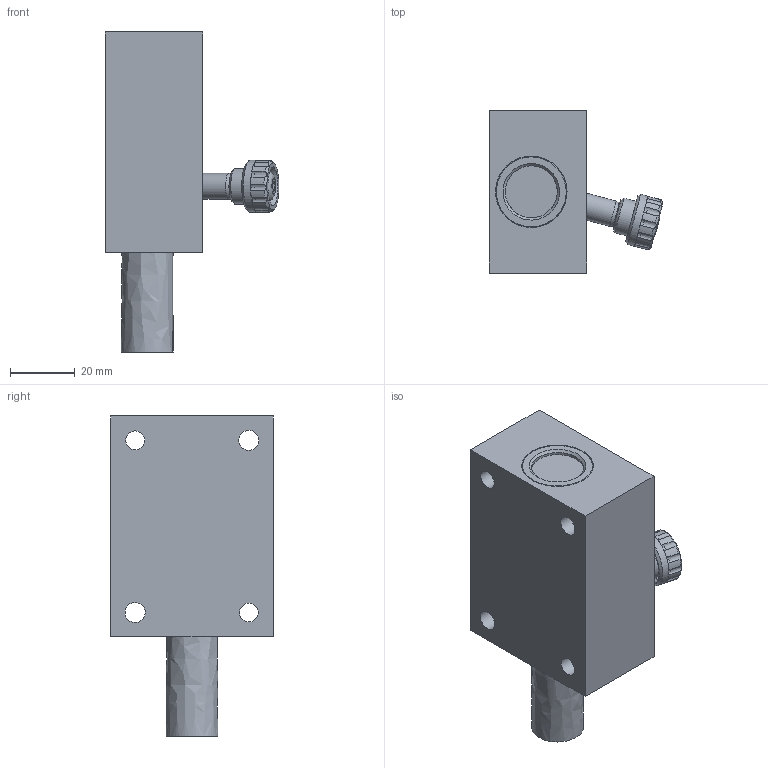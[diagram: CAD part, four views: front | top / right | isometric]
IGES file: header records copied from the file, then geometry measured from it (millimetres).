
Global section: file name: 30.00; native system: Autodesk Inventor 2021; preprocessor: unknown; author: APto; date: 20211116.094132; units: millimetre
Bounding box: 53.52 x 50 x 98.5 mm (x, y, z)
Volume: 94340.2 mm3; surface area: 34687.1 mm2
Topology: 8 solids, 8 shells, 153 faces, 399 edges, 271 vertices
Faces by surface type: bspline 153
